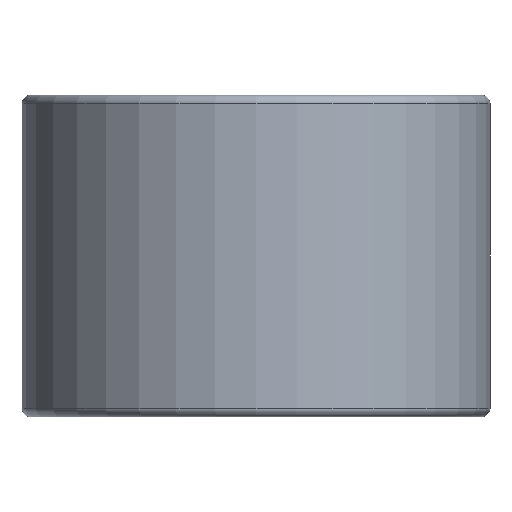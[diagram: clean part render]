
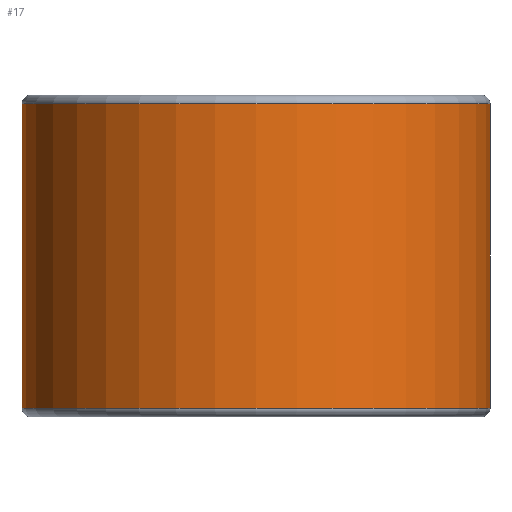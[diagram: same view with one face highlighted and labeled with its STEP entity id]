
A CAD part, front view. The second image highlights one B-rep face of the part: STEP entity #17.
In plain terms, the highlighted cylindrical face has radius 16 mm (diameter 32 mm), a full revolution.
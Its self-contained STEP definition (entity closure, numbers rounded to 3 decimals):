
#17 = ADVANCED_FACE('',(#18),#32,.T.);
#18 = FACE_BOUND('',#19,.T.);
#19 = EDGE_LOOP('',(#20,#50,#77,#78));
#20 = ORIENTED_EDGE('',*,*,#21,.T.);
#21 = EDGE_CURVE('',#22,#24,#26,.T.);
#22 = VERTEX_POINT('',#23);
#23 = CARTESIAN_POINT('',(16.,0.,-10.4));
#24 = VERTEX_POINT('',#25);
#25 = CARTESIAN_POINT('',(16.,0.,10.4));
#26 = SEAM_CURVE('',#27,(#31,#43),.PCURVE_S1.);
#27 = LINE('',#28,#29);
#28 = CARTESIAN_POINT('',(16.,0.,-11.));
#29 = VECTOR('',#30,1.);
#30 = DIRECTION('',(0.,0.,1.));
#31 = PCURVE('',#32,#37);
#32 = CYLINDRICAL_SURFACE('',#33,16.);
#33 = AXIS2_PLACEMENT_3D('',#34,#35,#36);
#34 = CARTESIAN_POINT('',(0.,0.,-11.));
#35 = DIRECTION('',(0.,0.,1.));
#36 = DIRECTION('',(1.,0.,-0.));
#37 = DEFINITIONAL_REPRESENTATION('',(#38),#42);
#38 = LINE('',#39,#40);
#39 = CARTESIAN_POINT('',(6.283,-0.));
#40 = VECTOR('',#41,1.);
#41 = DIRECTION('',(0.,1.));
#42 = ( GEOMETRIC_REPRESENTATION_CONTEXT(2) 
PARAMETRIC_REPRESENTATION_CONTEXT() REPRESENTATION_CONTEXT('2D SPACE',''
  ) );
#43 = PCURVE('',#32,#44);
#44 = DEFINITIONAL_REPRESENTATION('',(#45),#49);
#45 = LINE('',#46,#47);
#46 = CARTESIAN_POINT('',(0.,-0.));
#47 = VECTOR('',#48,1.);
#48 = DIRECTION('',(0.,1.));
#49 = ( GEOMETRIC_REPRESENTATION_CONTEXT(2) 
PARAMETRIC_REPRESENTATION_CONTEXT() REPRESENTATION_CONTEXT('2D SPACE',''
  ) );
#50 = ORIENTED_EDGE('',*,*,#51,.F.);
#51 = EDGE_CURVE('',#24,#24,#52,.T.);
#52 = SURFACE_CURVE('',#53,(#58,#65),.PCURVE_S1.);
#53 = CIRCLE('',#54,16.);
#54 = AXIS2_PLACEMENT_3D('',#55,#56,#57);
#55 = CARTESIAN_POINT('',(0.,0.,10.4));
#56 = DIRECTION('',(0.,0.,1.));
#57 = DIRECTION('',(1.,0.,-0.));
#58 = PCURVE('',#32,#59);
#59 = DEFINITIONAL_REPRESENTATION('',(#60),#64);
#60 = LINE('',#61,#62);
#61 = CARTESIAN_POINT('',(0.,21.4));
#62 = VECTOR('',#63,1.);
#63 = DIRECTION('',(1.,0.));
#64 = ( GEOMETRIC_REPRESENTATION_CONTEXT(2) 
PARAMETRIC_REPRESENTATION_CONTEXT() REPRESENTATION_CONTEXT('2D SPACE',''
  ) );
#65 = PCURVE('',#66,#71);
#66 = TOROIDAL_SURFACE('',#67,15.4,0.6);
#67 = AXIS2_PLACEMENT_3D('',#68,#69,#70);
#68 = CARTESIAN_POINT('',(0.,0.,10.4));
#69 = DIRECTION('',(0.,0.,1.));
#70 = DIRECTION('',(1.,0.,-0.));
#71 = DEFINITIONAL_REPRESENTATION('',(#72),#76);
#72 = LINE('',#73,#74);
#73 = CARTESIAN_POINT('',(0.,0.));
#74 = VECTOR('',#75,1.);
#75 = DIRECTION('',(1.,0.));
#76 = ( GEOMETRIC_REPRESENTATION_CONTEXT(2) 
PARAMETRIC_REPRESENTATION_CONTEXT() REPRESENTATION_CONTEXT('2D SPACE',''
  ) );
#77 = ORIENTED_EDGE('',*,*,#21,.F.);
#78 = ORIENTED_EDGE('',*,*,#79,.T.);
#79 = EDGE_CURVE('',#22,#22,#80,.T.);
#80 = SURFACE_CURVE('',#81,(#86,#93),.PCURVE_S1.);
#81 = CIRCLE('',#82,16.);
#82 = AXIS2_PLACEMENT_3D('',#83,#84,#85);
#83 = CARTESIAN_POINT('',(0.,0.,-10.4));
#84 = DIRECTION('',(0.,0.,1.));
#85 = DIRECTION('',(1.,0.,-0.));
#86 = PCURVE('',#32,#87);
#87 = DEFINITIONAL_REPRESENTATION('',(#88),#92);
#88 = LINE('',#89,#90);
#89 = CARTESIAN_POINT('',(0.,0.6));
#90 = VECTOR('',#91,1.);
#91 = DIRECTION('',(1.,0.));
#92 = ( GEOMETRIC_REPRESENTATION_CONTEXT(2) 
PARAMETRIC_REPRESENTATION_CONTEXT() REPRESENTATION_CONTEXT('2D SPACE',''
  ) );
#93 = PCURVE('',#94,#99);
#94 = TOROIDAL_SURFACE('',#95,15.4,0.6);
#95 = AXIS2_PLACEMENT_3D('',#96,#97,#98);
#96 = CARTESIAN_POINT('',(0.,0.,-10.4));
#97 = DIRECTION('',(-0.,-0.,-1.));
#98 = DIRECTION('',(1.,0.,-0.));
#99 = DEFINITIONAL_REPRESENTATION('',(#100),#104);
#100 = LINE('',#101,#102);
#101 = CARTESIAN_POINT('',(-0.,0.));
#102 = VECTOR('',#103,1.);
#103 = DIRECTION('',(-1.,0.));
#104 = ( GEOMETRIC_REPRESENTATION_CONTEXT(2) 
PARAMETRIC_REPRESENTATION_CONTEXT() REPRESENTATION_CONTEXT('2D SPACE',''
  ) );
